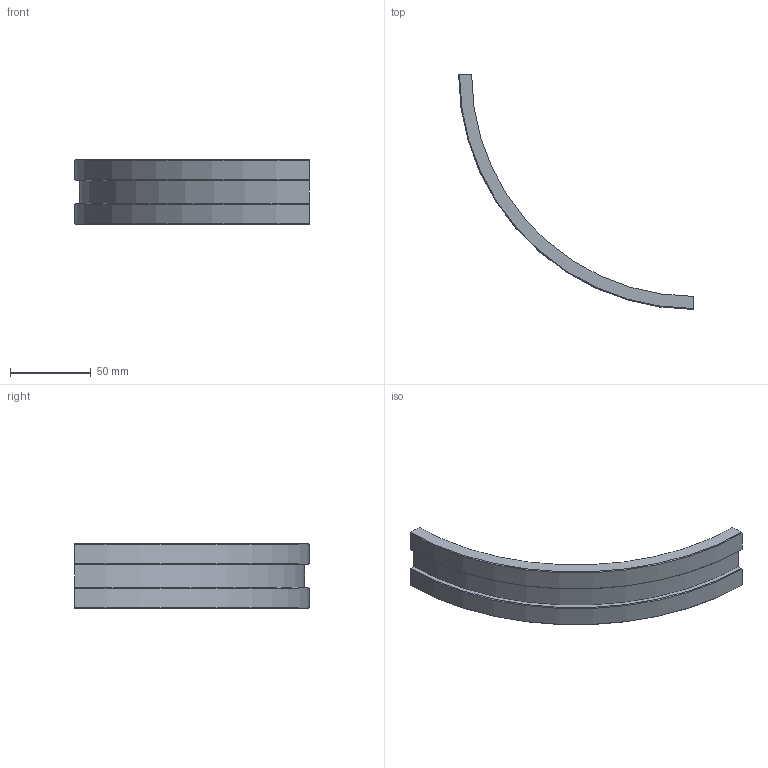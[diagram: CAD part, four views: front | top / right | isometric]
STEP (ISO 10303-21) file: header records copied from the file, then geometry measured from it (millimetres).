
FILE_DESCRIPTION (( 'STEP AP203' ), '1' );
FILE_NAME ('BW-Inner-ring.STEP', '2009-04-28T21:40:14', ( 'USER' ), ( '' ), 'SwSTEP 2.0', 'SolidWorks 2005204', '' );
FILE_SCHEMA (( 'CONFIG_CONTROL_DESIGN' ));
Length unit declared in the file: millimetre
Products named in the file (1): BW-Inner-ring
Bounding box: 144.95 x 144.95 x 40 mm (x, y, z)
Volume: 61271.6 mm3; surface area: 22828.7 mm2
Topology: 1 solids, 1 shells, 14 faces, 36 edges, 24 vertices
Faces by surface type: plane 6, cylinder 4, cone 4
Entity records: 509 total; most frequent: DIRECTION 78, CARTESIAN_POINT 75, ORIENTED_EDGE 72, EDGE_CURVE 36, AXIS2_PLACEMENT_3D 27, VERTEX_POINT 24, VECTOR 24, LINE 24
